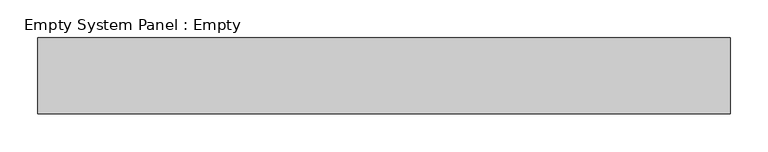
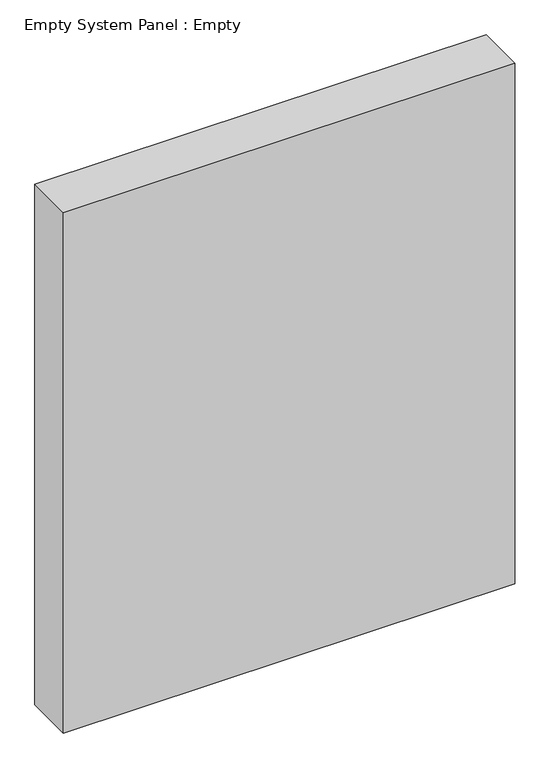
"""IFC4 building model written with IfcOpenShell, lengths in millimetres: plate geometry, Empty System Panel : Empty."""

from ifc_helpers import new_model, si_unit, origin, origin_with_axes, place, context, project, spatial, polyline, outline, extrude, source, transform, mapped, element, save


def empty_system_panel_empty_4dfb96b6(model_context):
    return source(origin(), model_context, "Body", "SweptSolid", [
        extrude(outline(polyline([(456.25, -50.0), (-456.25, -50.0), (-456.25, 50.0), (456.25, 50.0), (456.25, -50.0)])), origin_with_axes(), (0.0, 0.0, 1.0), 1112.5),
    ])


if __name__ == "__main__":
    model = new_model("IFC4")
    model_context = context("Model", 3, world=origin())
    ifc_project = project(units=[si_unit("LENGTHUNIT", "METRE", prefix="MILLI")], contexts=[model_context])
    site = spatial("IfcSite", under=ifc_project)
    building = spatial("IfcBuilding", under=site)
    placement = place(None, origin())
    empty_system_panel_empty_shape = empty_system_panel_empty_4dfb96b6(model_context)
    element("IfcPlate", 1, ObjectType="Empty System Panel : Empty", at=placement, inside=building, context=model_context, shape_type="MappedRepresentation", body=[
        mapped(empty_system_panel_empty_shape, transform((0.0, 0.0, 0.0), x_axis=(1.0, 0.0, 0.0), y_axis=(0.0, 1.0, 0.0), z_axis=(0.0, 0.0, 1.0))),
    ])
    save(model, "model.ifc")
